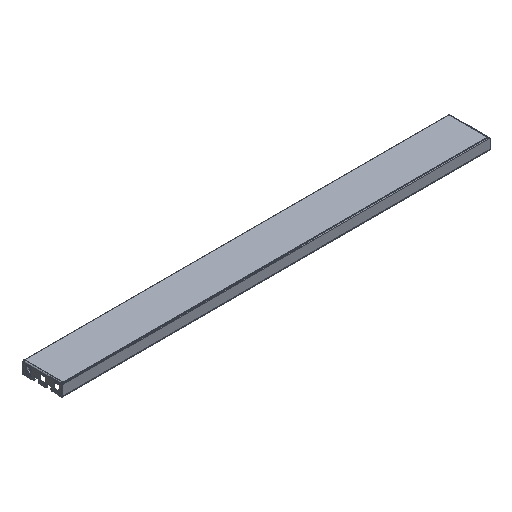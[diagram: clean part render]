
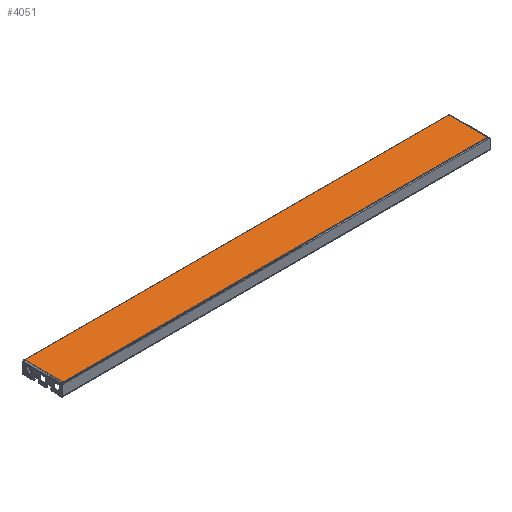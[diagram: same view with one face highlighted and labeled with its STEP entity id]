
A CAD part, isometric view. The second image highlights one B-rep face of the part: STEP entity #4051.
In plain terms, the highlighted planar face has unit normal (0, 0, 1).
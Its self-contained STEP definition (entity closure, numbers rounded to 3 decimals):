
#6 = DIRECTION ( 'NONE',  ( 0., 0., -1. ) ) ;
#33 = DIRECTION ( 'NONE',  ( -1., 0., 0. ) ) ;
#52 = DIRECTION ( 'NONE',  ( -1., 0., 0. ) ) ;
#96 = VERTEX_POINT ( 'NONE', #361 ) ;
#136 = VERTEX_POINT ( 'NONE', #3111 ) ;
#241 = VERTEX_POINT ( 'NONE', #440 ) ;
#263 = ORIENTED_EDGE ( 'NONE', *, *, #297, .T. ) ;
#274 = VERTEX_POINT ( 'NONE', #1780 ) ;
#297 = EDGE_CURVE ( 'NONE', #5025, #96, #4961, .T. ) ;
#305 = CIRCLE ( 'NONE', #970, 2.5 ) ;
#361 = CARTESIAN_POINT ( 'NONE',  ( 4.185, 96., 0. ) ) ;
#408 = FACE_OUTER_BOUND ( 'NONE', #4170, .T. ) ;
#410 = CIRCLE ( 'NONE', #1733, 2.5 ) ;
#414 = CARTESIAN_POINT ( 'NONE',  ( 0., 3., 0. ) ) ;
#440 = CARTESIAN_POINT ( 'NONE',  ( 1040.3, 3.875, 0. ) ) ;
#596 = EDGE_CURVE ( 'NONE', #274, #136, #305, .T. ) ;
#631 = VECTOR ( 'NONE', #1732, 1000. ) ;
#728 = CIRCLE ( 'NONE', #4956, 2.5 ) ;
#782 = CARTESIAN_POINT ( 'NONE',  ( 1040.3, 95.125, 0. ) ) ;
#811 = AXIS2_PLACEMENT_3D ( 'NONE', #4865, #3294, #1297 ) ;
#941 = CARTESIAN_POINT ( 'NONE',  ( 3.7, 95.125, 0. ) ) ;
#970 = AXIS2_PLACEMENT_3D ( 'NONE', #1995, #3581, #33 ) ;
#994 = VECTOR ( 'NONE', #4704, 1000. ) ;
#1150 = EDGE_CURVE ( 'NONE', #2474, #5025, #728, .T. ) ;
#1297 = DIRECTION ( 'NONE',  ( 1., 0., 0. ) ) ;
#1454 = EDGE_CURVE ( 'NONE', #241, #2474, #4410, .T. ) ;
#1485 = VERTEX_POINT ( 'NONE', #4431 ) ;
#1502 = CARTESIAN_POINT ( 'NONE',  ( 1039.815, 96., 0. ) ) ;
#1588 = CARTESIAN_POINT ( 'NONE',  ( 1042.2, 96.75, 0. ) ) ;
#1654 = DIRECTION ( 'NONE',  ( 0., 1., 0. ) ) ;
#1732 = DIRECTION ( 'NONE',  ( -1., 0., 0. ) ) ;
#1733 = AXIS2_PLACEMENT_3D ( 'NONE', #5150, #4666, #1907 ) ;
#1780 = CARTESIAN_POINT ( 'NONE',  ( 3.7, 3.875, 0. ) ) ;
#1907 = DIRECTION ( 'NONE',  ( 1., 0., 0. ) ) ;
#1995 = CARTESIAN_POINT ( 'NONE',  ( 1.8, 2.25, 0. ) ) ;
#2016 = ORIENTED_EDGE ( 'NONE', *, *, #596, .T. ) ;
#2022 = PLANE ( 'NONE',  #2406 ) ;
#2094 = CARTESIAN_POINT ( 'NONE',  ( 1040.3, 3., 0. ) ) ;
#2237 = EDGE_CURVE ( 'NONE', #96, #4414, #4534, .T. ) ;
#2255 = VECTOR ( 'NONE', #3054, 1000. ) ;
#2304 = VECTOR ( 'NONE', #1654, 1000. ) ;
#2329 = ORIENTED_EDGE ( 'NONE', *, *, #1454, .T. ) ;
#2339 = LINE ( 'NONE', #414, #994 ) ;
#2406 = AXIS2_PLACEMENT_3D ( 'NONE', #5127, #6, #52 ) ;
#2474 = VERTEX_POINT ( 'NONE', #782 ) ;
#2686 = LINE ( 'NONE', #5102, #2255 ) ;
#2809 = ORIENTED_EDGE ( 'NONE', *, *, #3603, .T. ) ;
#3054 = DIRECTION ( 'NONE',  ( 0., -1., 0. ) ) ;
#3111 = CARTESIAN_POINT ( 'NONE',  ( 4.185, 3., 0. ) ) ;
#3169 = DIRECTION ( 'NONE',  ( 0., 0., -1. ) ) ;
#3202 = EDGE_CURVE ( 'NONE', #1485, #241, #410, .T. ) ;
#3268 = CARTESIAN_POINT ( 'NONE',  ( 1044., 96., 0. ) ) ;
#3294 = DIRECTION ( 'NONE',  ( 0., 0., -1. ) ) ;
#3469 = ORIENTED_EDGE ( 'NONE', *, *, #3202, .T. ) ;
#3560 = DIRECTION ( 'NONE',  ( -1., 0., 0. ) ) ;
#3581 = DIRECTION ( 'NONE',  ( 0., 0., -1. ) ) ;
#3603 = EDGE_CURVE ( 'NONE', #136, #1485, #2339, .T. ) ;
#3798 = ORIENTED_EDGE ( 'NONE', *, *, #5000, .T. ) ;
#4051 = ADVANCED_FACE ( 'NONE', ( #408 ), #2022, .F. ) ;
#4170 = EDGE_LOOP ( 'NONE', ( #4900, #263, #4496, #3798, #2016, #2809, #3469, #2329 ) ) ;
#4410 = LINE ( 'NONE', #2094, #2304 ) ;
#4414 = VERTEX_POINT ( 'NONE', #941 ) ;
#4431 = CARTESIAN_POINT ( 'NONE',  ( 1039.815, 3., 0. ) ) ;
#4496 = ORIENTED_EDGE ( 'NONE', *, *, #2237, .T. ) ;
#4534 = CIRCLE ( 'NONE', #811, 2.5 ) ;
#4666 = DIRECTION ( 'NONE',  ( 0., 0., -1. ) ) ;
#4704 = DIRECTION ( 'NONE',  ( 1., 0., 0. ) ) ;
#4865 = CARTESIAN_POINT ( 'NONE',  ( 1.8, 96.75, 0. ) ) ;
#4900 = ORIENTED_EDGE ( 'NONE', *, *, #1150, .T. ) ;
#4956 = AXIS2_PLACEMENT_3D ( 'NONE', #1588, #3169, #3560 ) ;
#4961 = LINE ( 'NONE', #3268, #631 ) ;
#5000 = EDGE_CURVE ( 'NONE', #4414, #274, #2686, .T. ) ;
#5025 = VERTEX_POINT ( 'NONE', #1502 ) ;
#5102 = CARTESIAN_POINT ( 'NONE',  ( 3.7, 96., 0. ) ) ;
#5127 = CARTESIAN_POINT ( 'NONE',  ( 0., 99., 0. ) ) ;
#5150 = CARTESIAN_POINT ( 'NONE',  ( 1042.2, 2.25, 0. ) ) ;
